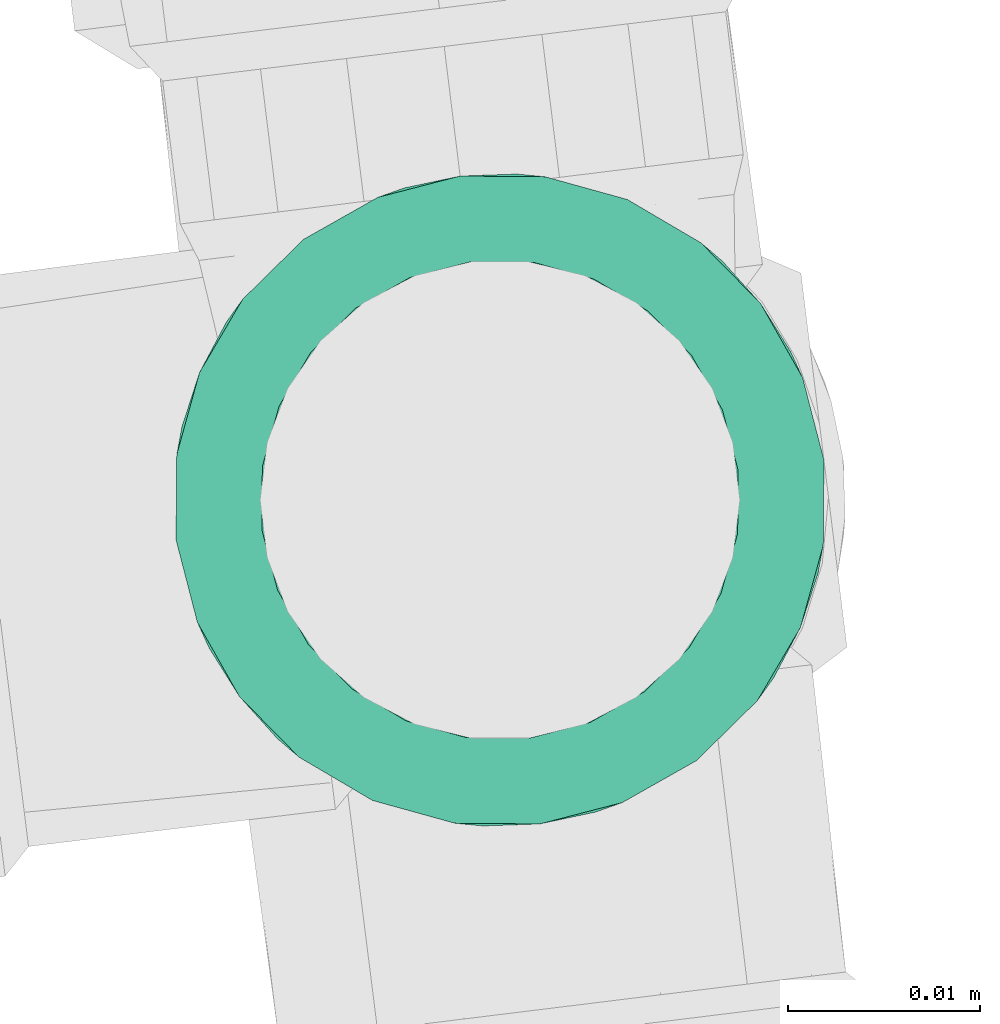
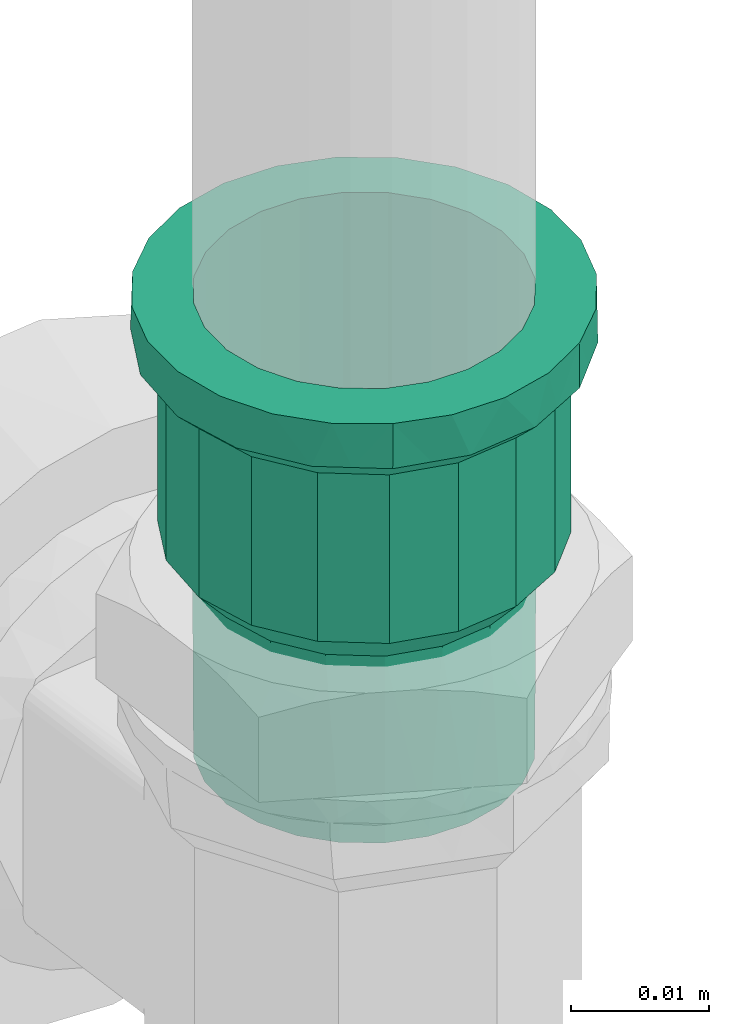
# One storey, part 72 of 97: 1 flow fitting.
"""IFC2X3 building model written with IfcOpenShell, lengths in centimetres."""

from ifc_helpers import new_model, entity, si_unit, converted_unit, derived_unit, direction, frame, origin, place, context, subcontext, project, spatial, faceted_brep, source, transform, mapped, material, type_object, type_shapes, element, save


model = new_model("IFC2X3")

# Units and contexts
model_context = context("Model", 3, precision=0.001, world=origin(), true_north=direction((6.12303176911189e-17, 1.0)))
body_context = subcontext(model_context, "Body", "Model", "MODEL_VIEW")
ifc_project = project(units=[si_unit("LENGTHUNIT", "METRE", prefix="CENTI"), si_unit("AREAUNIT", "SQUARE_METRE"), si_unit("VOLUMEUNIT", "CUBIC_METRE"), converted_unit("PLANEANGLEUNIT", "DEGREE", entity("IfcRatioMeasure", 0.0174532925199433), si_unit("PLANEANGLEUNIT", "RADIAN"), dimensions=[0, 0, 0, 0, 0, 0, 0]), si_unit("MASSUNIT", "GRAM", prefix="KILO"), derived_unit("MASSDENSITYUNIT", [(si_unit("MASSUNIT", "GRAM", prefix="KILO"), 1), (si_unit("LENGTHUNIT", "METRE"), -3)]), derived_unit("MOMENTOFINERTIAUNIT", [(si_unit("LENGTHUNIT", "METRE"), 4)]), si_unit("TIMEUNIT", "SECOND"), si_unit("FREQUENCYUNIT", "HERTZ"), si_unit("THERMODYNAMICTEMPERATUREUNIT", "DEGREE_CELSIUS"), derived_unit("THERMALTRANSMITTANCEUNIT", [(si_unit("MASSUNIT", "GRAM", prefix="KILO"), 1), (si_unit("THERMODYNAMICTEMPERATUREUNIT", "KELVIN"), -1), (si_unit("TIMEUNIT", "SECOND"), -3)]), derived_unit("VOLUMETRICFLOWRATEUNIT", [(si_unit("LENGTHUNIT", "METRE"), 3), (si_unit("TIMEUNIT", "SECOND"), -1)]), si_unit("ELECTRICCURRENTUNIT", "AMPERE"), si_unit("ELECTRICVOLTAGEUNIT", "VOLT"), si_unit("POWERUNIT", "WATT"), si_unit("FORCEUNIT", "NEWTON", prefix="KILO"), si_unit("ILLUMINANCEUNIT", "LUX"), si_unit("LUMINOUSFLUXUNIT", "LUMEN"), si_unit("LUMINOUSINTENSITYUNIT", "CANDELA"), derived_unit("USERDEFINED", [(si_unit("MASSUNIT", "GRAM", prefix="KILO"), -1), (si_unit("LENGTHUNIT", "METRE"), -2), (si_unit("TIMEUNIT", "SECOND"), 3), (si_unit("LUMINOUSFLUXUNIT", "LUMEN"), 1)]), derived_unit("LINEARVELOCITYUNIT", [(si_unit("LENGTHUNIT", "METRE"), 1), (si_unit("TIMEUNIT", "SECOND"), -1)]), si_unit("PRESSUREUNIT", "PASCAL"), derived_unit("USERDEFINED", [(si_unit("LENGTHUNIT", "METRE"), -2), (si_unit("MASSUNIT", "GRAM", prefix="KILO"), 1), (si_unit("TIMEUNIT", "SECOND"), -2)]), derived_unit("LINEARFORCEUNIT", [(si_unit("MASSUNIT", "GRAM", prefix="KILO"), 1), (si_unit("LENGTHUNIT", "METRE"), 1), (si_unit("TIMEUNIT", "SECOND"), -2), (si_unit("LENGTHUNIT", "METRE"), -1)]), derived_unit("PLANARFORCEUNIT", [(si_unit("MASSUNIT", "GRAM", prefix="KILO"), 1), (si_unit("LENGTHUNIT", "METRE"), 1), (si_unit("TIMEUNIT", "SECOND"), -2), (si_unit("LENGTHUNIT", "METRE"), -2)])], contexts=[model_context])

# Site, building, storey
site_placement = place(None, origin())
site = spatial("IfcSite", under=ifc_project, at=site_placement, Name="Default", CompositionType="ELEMENT")
building_placement = place(site_placement, origin())
building = spatial("IfcBuilding", under=site, at=building_placement, Name="HIDROSSANITÁRIO", CompositionType="ELEMENT")
storey_placement = place(building_placement, frame((0.0, 0.0, -260.0)))
storey = spatial("IfcBuildingStorey", under=building, at=storey_placement, Name="TÉRREO-HID", CompositionType="ELEMENT", Elevation=-260.0)

# Flow fitting
ifc_material = material(Name="PVC Marrom")
pipe_fitting_type = type_object("IfcPipeFittingType", Name="PVC Marrom Soldável_Adaptador Curto com Bolsa e Rosca Aninhado:Adaptador", PredefinedType="NOTDEFINED", material=ifc_material)
shared_shape = source(origin(), body_context, "Body", "Brep", [
    faceted_brep([(0.0, 0.624999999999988, -1.08253175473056), (0.0, 1.20208152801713, -1.20208152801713), (0.0, 0.850000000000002, -1.47224318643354), (0.0, 0.883883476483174, -0.883883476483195), (0.0, 0.323523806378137, -1.20740728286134), (0.0, 1.47224318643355, -0.849999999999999), (0.0, 1.08253175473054, -0.625000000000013), (0.0, 1.20740728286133, -0.323523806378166), (0.0, 1.64207390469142, -0.439992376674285), (0.0, 1.25, 0.0), (0.0, 1.7, 0.0), (0.0, 1.20740728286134, 0.323523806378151), (0.0, 1.64207390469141, 0.439992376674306), (0.0, 1.08253175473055, 0.625), (0.0, 1.47224318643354, 0.850000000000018), (0.0, 0.883883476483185, 0.883883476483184), (0.0, 1.20208152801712, 1.20208152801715), (0.0, 0.625000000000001, 1.08253175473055), (0.0, 0.849999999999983, 1.47224318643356), (0.0, 0.323523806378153, 1.20740728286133), (0.0, 0.439992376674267, 1.64207390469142), (0.0, 0.0, 1.25), (0.0, 0.0, 1.7), (0.0, -0.323523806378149, 1.20740728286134), (0.0, -0.439992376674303, 1.64207390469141), (0.0, -0.624999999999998, 1.08253175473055), (0.0, -0.850000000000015, 1.47224318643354), (0.0, -0.883883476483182, 0.883883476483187), (0.0, -1.20208152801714, 1.20208152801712), (0.0, -1.08253175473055, 0.625000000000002), (0.0, -1.47224318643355, 0.849999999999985), (0.0, -1.64207390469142, 0.439992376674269), (0.0, -1.20740728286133, 0.323523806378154), (0.0, -1.7, 0.0), (0.0, -1.25, 0.0), (0.0, -1.64207390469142, -0.43999237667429), (0.0, -1.20740728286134, -0.323523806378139), (0.0, -1.47224318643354, -0.850000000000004), (0.0, -1.08253175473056, -0.624999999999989), (0.0, -1.20208152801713, -1.20208152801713), (0.0, -0.883883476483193, -0.883883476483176), (0.0, -0.849999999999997, -1.47224318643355), (0.0, -0.625000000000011, -1.08253175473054), (0.0, -0.439992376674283, -1.64207390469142), (0.0, -0.323523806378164, -1.20740728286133), (0.0, 0.0, -1.7), (0.0, 0.0, -1.25), (0.0, 0.439992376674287, -1.64207390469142), (0.399999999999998, -1.64873062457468, 0.290739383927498), (0.399999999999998, -1.59746124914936, 0.581478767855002), (0.399999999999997, -1.30221463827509, 1.09281152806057), (0.399999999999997, -1.07604576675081, 1.28256289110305), (0.399999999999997, -1.44983794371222, 0.837145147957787), (0.399999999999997, -0.295015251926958, 1.67420608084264), (0.399999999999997, -0.57244607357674, 1.57326016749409), (0.399999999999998, -1.7, 0.0), (0.399999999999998, -1.659968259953, 0.227012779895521), (0.399999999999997, -0.849876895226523, 1.47231425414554), (0.399999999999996, 0.572840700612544, 1.57311652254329), (0.399999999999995, 0.850246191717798, 1.47210102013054), (0.399999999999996, 0.295435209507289, 1.67413202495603), (0.399999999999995, 1.07636745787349, 1.28229292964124), (0.399999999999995, 1.30248872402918, 1.09248483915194), (0.399999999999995, 1.5976070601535, 0.581078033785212), (0.399999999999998, 1.7, 0.0), (0.399999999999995, 1.45004789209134, 0.836781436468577), (0.399999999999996, 0.000209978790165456, 1.67416905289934), (0.400000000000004, 1.59760706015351, -0.581078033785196), (0.400000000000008, 1.30248872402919, -1.09248483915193), (0.400000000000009, 1.0763674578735, -1.28229292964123), (0.400000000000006, 1.45004789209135, -0.836781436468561), (0.400000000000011, 0.295435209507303, -1.67413202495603), (0.40000000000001, 0.572840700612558, -1.57311652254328), (0.40000000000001, 0.850246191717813, -1.47210102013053), (0.4, -1.64873062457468, -0.290739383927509), (0.400000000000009, -0.572446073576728, -1.57326016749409), (0.400000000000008, -0.849876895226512, -1.47231425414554), (0.40000000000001, -0.295015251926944, -1.67420608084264), (0.400000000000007, -1.0760457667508, -1.28256289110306), (0.400000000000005, -1.30221463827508, -1.09281152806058), (0.400000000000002, -1.59746124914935, -0.581478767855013), (0.400000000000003, -1.44983794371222, -0.837145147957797), (0.40000000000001, 0.000209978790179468, -1.67416905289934), (0.399999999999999, -1.65996825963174, -0.227012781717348), (2.085, -1.41422304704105, 0.514779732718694), (0.590000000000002, -1.41422304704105, 0.514779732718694), (0.590000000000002, -1.45961152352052, 0.257389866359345), (0.590000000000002, -1.505, 0.0), (2.085, -1.505, 0.0), (2.085, -1.45961152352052, 0.257389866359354), (2.085, -1.45359735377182, 0.291495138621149), (2.08499999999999, -0.752391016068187, 1.30343114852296), (0.590000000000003, -0.752391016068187, 1.30343114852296), (0.590000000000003, -0.952616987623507, 1.13544538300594), (0.590000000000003, -1.15284295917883, 0.967459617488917), (2.08499999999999, -1.15284295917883, 0.967459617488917), (2.08499999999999, -0.952616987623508, 1.13544538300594), (0.590000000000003, -1.28353300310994, 0.741119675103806), (2.085, -1.28353300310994, 0.741119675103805), (0.590000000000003, -0.506783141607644, 1.39279797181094), (2.08499999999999, -0.506783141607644, 1.39279797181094), (2.08499999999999, -0.261175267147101, 1.48216479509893), (0.590000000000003, -0.261175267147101, 1.48216479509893), (0.590000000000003, 0.000185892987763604, 1.48213201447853), (2.08499999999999, 0.000185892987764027, 1.48213201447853), (2.08499999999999, 0.261547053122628, 1.48209923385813), (0.590000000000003, 0.261547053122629, 1.48209923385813), (2.08499999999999, 0.75271795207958, 1.3032423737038), (0.590000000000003, 0.752717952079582, 1.3032423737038), (0.590000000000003, 0.507132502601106, 1.39267080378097), (2.08499999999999, 0.507132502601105, 1.39267080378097), (2.08499999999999, 1.15308560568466, 0.967170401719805), (0.590000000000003, 1.15308560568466, 0.967170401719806), (0.590000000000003, 0.952901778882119, 1.1352063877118), (2.08499999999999, 0.952901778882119, 1.1352063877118), (2.085, 1.4143521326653, 0.514424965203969), (0.590000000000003, 1.4143521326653, 0.514424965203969), (0.590000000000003, 1.28371886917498, 0.740797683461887), (2.085, 1.28371886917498, 0.740797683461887), (2.085, 1.505, 0.0), (0.590000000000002, 1.505, 0.0), (2.08500000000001, 1.41435213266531, -0.514424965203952), (0.590000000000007, 1.41435213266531, -0.514424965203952), (0.590000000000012, 0.752717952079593, -1.3032423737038), (0.590000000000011, 0.95290177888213, -1.13520638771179), (0.59000000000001, 1.15308560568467, -0.967170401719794), (2.08500000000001, 1.15308560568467, -0.967170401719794), (2.08500000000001, 0.95290177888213, -1.13520638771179), (2.08500000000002, 0.752717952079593, -1.3032423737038), (2.08500000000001, -1.41422304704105, -0.514779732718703), (0.590000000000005, -1.41422304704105, -0.514779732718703), (0.590000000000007, -1.28353300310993, -0.741119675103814), (0.590000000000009, -1.15284295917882, -0.967459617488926), (2.08500000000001, -1.15284295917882, -0.967459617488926), (2.08500000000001, -1.28353300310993, -0.741119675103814), (2.08500000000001, -0.752391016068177, -1.30343114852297), (0.590000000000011, -0.752391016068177, -1.30343114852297), (0.590000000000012, -0.506783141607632, -1.39279797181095), (0.590000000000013, -0.261175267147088, -1.48216479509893), (2.08500000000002, -0.261175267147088, -1.48216479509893), (2.08500000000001, -0.506783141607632, -1.39279797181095), (0.590000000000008, 1.28371886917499, -0.740797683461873), (2.08500000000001, 1.28371886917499, -0.740797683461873), (0.590000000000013, 0.507132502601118, -1.39267080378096), (2.08500000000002, 0.507132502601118, -1.39267080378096), (2.08500000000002, 0.261547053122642, -1.48209923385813), (0.590000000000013, 0.261547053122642, -1.48209923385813), (2.085, -1.45359734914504, -0.291495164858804), (2.085, -1.46677519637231, -0.216765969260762), (0.590000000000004, -1.45961152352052, -0.257389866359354), (0.59000000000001, -0.952616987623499, -1.13544538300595), (2.08500000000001, -0.952616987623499, -1.13544538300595), (0.590000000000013, 0.000185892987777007, -1.48213201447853), (2.08500000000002, 0.000185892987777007, -1.48213201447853), (4.03, 0.323523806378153, -1.20740728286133), (4.03, 0.625000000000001, -1.08253175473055), (4.03, 0.883883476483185, -0.883883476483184), (4.03, 1.08253175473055, -0.624999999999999), (4.03, 1.20740728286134, -0.323523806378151), (4.03, 1.25, 0.0), (4.03, 1.20740728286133, 0.323523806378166), (4.03, 1.08253175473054, 0.625000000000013), (4.03, 0.883883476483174, 0.883883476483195), (4.03, 0.624999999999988, 1.08253175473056), (4.03, 0.323523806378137, 1.20740728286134), (4.03, 0.0, 1.25), (4.03, -0.323523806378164, 1.20740728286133), (4.03, -0.625000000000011, 1.08253175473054), (4.03, -0.883883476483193, 0.883883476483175), (4.03, -1.08253175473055, 0.624999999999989), (4.03, -1.20740728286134, 0.323523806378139), (4.03, -1.25, 0.0), (4.03, -1.20740728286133, -0.323523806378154), (4.03, -1.08253175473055, -0.625000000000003), (4.03, -0.883883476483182, -0.883883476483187), (4.03, -0.624999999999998, -1.08253175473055), (4.03, -0.323523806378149, -1.20740728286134), (4.03, 0.0, -1.25), (2.375, -1.25, 0.0), (2.37499999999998, -0.957510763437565, 0.803537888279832), (2.37499999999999, -1.17460385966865, 0.427557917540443), (2.37499999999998, -0.624909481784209, 1.08258401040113), (2.37499999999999, -1.06605731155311, 0.615547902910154), (2.375, -1.21825182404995, 0.180038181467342), (2.37499999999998, -0.216922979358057, 1.23103388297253), (2.37499999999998, -0.420916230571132, 1.15680894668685), (2.37499999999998, -0.791210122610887, 0.943060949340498), (2.37499999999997, 0.217231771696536, 1.23097943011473), (2.37499999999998, 0.625181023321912, 1.08242722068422), (2.37499999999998, 0.957712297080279, 0.803297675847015), (2.37499999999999, 1.17471107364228, 0.427263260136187), (2.37499999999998, 0.791446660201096, 0.94286244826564), (2.37499999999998, 0.421206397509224, 1.1567033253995), (2.375, 1.25, 0.0), (2.37499999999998, 1.06621168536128, 0.615280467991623), (2.37499999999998, 0.000154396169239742, 1.23100665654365), (2.37500000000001, 0.957712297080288, -0.803297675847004), (2.375, 1.17471107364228, -0.427263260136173), (2.37500000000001, 0.625181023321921, -1.08242722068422), (2.37500000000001, 1.06621168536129, -0.615280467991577), (2.37500000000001, 0.217231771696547, -1.23097943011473), (2.37500000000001, 0.421206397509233, -1.15670332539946), (2.37500000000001, 0.791446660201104, -0.942862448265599), (2.37500000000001, -0.216922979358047, -1.23103388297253), (2.37500000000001, -0.6249094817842, -1.08258401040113), (2.375, -0.957510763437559, -0.803537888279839), (2.375, -1.17460385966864, -0.427557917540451), (2.37500000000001, -0.79121012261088, -0.943060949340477), (2.37500000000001, -0.420916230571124, -1.15680894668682), (2.375, -1.21230192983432, -0.213778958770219), (2.375, -1.0660573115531, -0.615547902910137), (2.37500000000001, 0.00015439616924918, -1.23100665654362), (0.590000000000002, -1.25, 0.0), (2.085, -1.25, 0.0), (2.085, -1.20740728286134, -0.323523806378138), (0.590000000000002, -1.20740728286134, -0.323523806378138), (0.399999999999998, -1.20740728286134, -0.323523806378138), (0.399999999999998, -1.25, 0.0), (2.085, -1.08253175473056, -0.624999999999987), (0.590000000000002, -1.08253175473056, -0.624999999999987), (0.399999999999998, -1.08253175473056, -0.624999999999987), (0.590000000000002, -0.625000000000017, -1.08253175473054), (0.399999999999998, -0.625000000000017, -1.08253175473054), (0.399999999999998, -0.883883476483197, -0.883883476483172), (0.590000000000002, -0.883883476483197, -0.883883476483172), (2.085, -0.883883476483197, -0.883883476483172), (2.085, -0.625000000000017, -1.08253175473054), (0.590000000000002, -0.32352380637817, -1.20740728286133), (0.399999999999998, -0.32352380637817, -1.20740728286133), (2.085, -0.32352380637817, -1.20740728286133), (2.085, 0.0, -1.25), (0.590000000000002, 0.0, -1.25), (0.399999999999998, 0.0, -1.25), (2.085, 0.323523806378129, -1.20740728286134), (0.590000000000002, 0.323523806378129, -1.20740728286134), (0.399999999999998, 0.323523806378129, -1.20740728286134), (2.085, 0.624999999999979, -1.08253175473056), (0.590000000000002, 0.624999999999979, -1.08253175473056), (0.399999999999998, 0.624999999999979, -1.08253175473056), (0.590000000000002, 1.08253175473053, -0.625000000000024), (0.399999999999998, 1.08253175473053, -0.625000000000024), (0.399999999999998, 0.883883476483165, -0.883883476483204), (0.590000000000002, 0.883883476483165, -0.883883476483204), (2.085, 0.883883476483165, -0.883883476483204), (2.085, 1.08253175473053, -0.625000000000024), (0.590000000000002, 1.20740728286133, -0.323523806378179), (0.399999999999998, 1.20740728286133, -0.323523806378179), (2.085, 1.20740728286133, -0.323523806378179), (2.085, 1.25, 0.0), (0.590000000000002, 1.25, 0.0), (0.399999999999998, 1.25, 0.0), (2.085, 1.20740728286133, 0.323523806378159), (0.590000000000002, 1.20740728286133, 0.323523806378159), (0.399999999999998, 1.20740728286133, 0.323523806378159), (2.085, 1.08253175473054, 0.625000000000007), (0.590000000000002, 1.08253175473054, 0.625000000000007), (0.399999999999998, 1.08253175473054, 0.625000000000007), (0.590000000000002, 0.624999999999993, 1.08253175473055), (0.399999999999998, 0.624999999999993, 1.08253175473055), (0.399999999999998, 0.883883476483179, 0.88388347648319), (0.590000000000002, 0.883883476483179, 0.88388347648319), (2.085, 0.883883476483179, 0.88388347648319), (2.085, 0.624999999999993, 1.08253175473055), (0.590000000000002, 0.323523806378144, 1.20740728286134), (0.399999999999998, 0.323523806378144, 1.20740728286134), (2.085, 0.323523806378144, 1.20740728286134), (2.085, 0.0, 1.25), (0.590000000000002, 0.0, 1.25), (0.399999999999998, 0.0, 1.25), (2.085, -0.323523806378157, 1.20740728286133), (0.590000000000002, -0.323523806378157, 1.20740728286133), (0.399999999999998, -0.323523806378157, 1.20740728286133), (2.085, -0.625000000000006, 1.08253175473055), (0.590000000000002, -0.625000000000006, 1.08253175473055), (0.399999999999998, -0.625000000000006, 1.08253175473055), (0.590000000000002, -1.08253175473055, 0.624999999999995), (0.399999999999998, -1.08253175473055, 0.624999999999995), (0.399999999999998, -0.883883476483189, 0.88388347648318), (0.590000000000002, -0.883883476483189, 0.88388347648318), (2.085, -0.883883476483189, 0.88388347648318), (2.085, -1.08253175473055, 0.624999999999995), (0.590000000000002, -1.20740728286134, 0.323523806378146), (0.399999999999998, -1.20740728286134, 0.323523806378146), (2.085, -1.20740728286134, 0.323523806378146)], [[[0, 1, 2]], [[3, 1, 0]], [[4, 0, 2]], [[1, 3, 5]], [[5, 3, 6]], [[5, 6, 7]], [[8, 5, 7]], [[9, 8, 7]], [[10, 8, 9]], [[10, 9, 11]], [[12, 10, 11]], [[12, 11, 13]], [[14, 12, 13]], [[14, 13, 15]], [[15, 16, 14]], [[15, 17, 16]], [[18, 16, 17]], [[19, 18, 17]], [[18, 19, 20]], [[21, 20, 19]], [[22, 20, 21]], [[21, 23, 22]], [[24, 22, 23]], [[25, 24, 23]], [[24, 25, 26]], [[25, 27, 26]], [[27, 28, 26]], [[28, 27, 29]], [[28, 29, 30]], [[30, 29, 31]], [[31, 29, 32]], [[33, 31, 32]], [[32, 34, 33]], [[33, 34, 35]], [[34, 36, 35]], [[37, 35, 36]], [[37, 36, 38]], [[39, 37, 38]], [[40, 39, 38]], [[40, 41, 39]], [[42, 41, 40]], [[43, 41, 42]], [[42, 44, 43]], [[43, 44, 45]], [[46, 45, 44]], [[46, 4, 47]], [[45, 46, 47]], [[2, 47, 4]], [[48, 49, 31]], [[28, 50, 51]], [[50, 30, 49, 52]], [[53, 24, 54]], [[30, 31, 49]], [[33, 55, 56, 48]], [[51, 57, 26]], [[51, 26, 28]], [[30, 50, 28]], [[58, 59, 18]], [[58, 18, 20]], [[26, 57, 54]], [[26, 54, 24]], [[22, 24, 53]], [[33, 48, 31]], [[20, 60, 58]], [[16, 61, 62]], [[12, 63, 64]], [[63, 14, 62, 65]], [[12, 64, 10]], [[18, 61, 16]], [[22, 53, 66, 60]], [[22, 60, 20]], [[14, 16, 62]], [[59, 61, 18]], [[14, 63, 12]], [[8, 64, 67]], [[1, 68, 69]], [[68, 5, 67, 70]], [[71, 47, 72]], [[5, 8, 67]], [[8, 10, 64]], [[2, 72, 47]], [[69, 73, 2]], [[5, 68, 1]], [[74, 33, 35]], [[75, 76, 41]], [[2, 73, 72]], [[75, 41, 43]], [[45, 47, 71]], [[69, 2, 1]], [[43, 77, 75]], [[39, 78, 79]], [[35, 80, 74]], [[80, 37, 79, 81]], [[37, 80, 35]], [[41, 78, 39]], [[45, 71, 82, 77]], [[45, 77, 43]], [[37, 39, 79]], [[76, 78, 41]], [[33, 74, 83, 55]], [[84, 85, 86, 87, 88, 89, 90]], [[91, 92, 93, 94, 95, 96]], [[97, 85, 84, 98, 95, 94]], [[99, 92, 91, 100, 101, 102]], [[103, 102, 101, 104, 105, 106]], [[107, 108, 109, 106, 105, 110]], [[111, 112, 113, 108, 107, 114]], [[115, 116, 117, 112, 111, 118]], [[115, 119, 120, 116]], [[120, 119, 121, 122]], [[123, 124, 125, 126, 127, 128]], [[129, 130, 131, 132, 133, 134]], [[135, 136, 137, 138, 139, 140]], [[141, 122, 121, 142, 126, 125]], [[143, 123, 128, 144, 145, 146]], [[147, 148, 88, 87, 149, 130, 129]], [[133, 132, 150, 136, 135, 151]], [[152, 146, 145, 153, 139, 138]], [[154, 155, 156, 157, 158, 159, 160, 161, 162, 163, 164, 165, 166, 167, 168, 169, 170, 171, 172, 173, 174, 175, 176, 177]], [[178, 171, 170]], [[179, 169, 168]], [[170, 169, 180]], [[168, 167, 181]], [[169, 179, 182, 180]], [[170, 180, 183, 178]], [[166, 184, 185, 181]], [[168, 181, 186, 179]], [[184, 166, 165]], [[181, 167, 166]], [[164, 187, 165]], [[163, 188, 164]], [[189, 162, 161]], [[163, 162, 188]], [[190, 161, 160]], [[162, 189, 191, 188]], [[164, 188, 192, 187]], [[160, 193, 190]], [[161, 190, 194, 189]], [[160, 159, 193]], [[165, 187, 195, 184]], [[193, 159, 158]], [[196, 157, 156]], [[158, 157, 197]], [[156, 155, 198]], [[157, 196, 199, 197]], [[197, 193, 158]], [[154, 200, 201, 198]], [[156, 198, 202, 196]], [[200, 154, 177]], [[198, 155, 154]], [[176, 203, 177]], [[175, 204, 176]], [[205, 174, 173]], [[175, 174, 204]], [[206, 173, 172]], [[174, 205, 207, 204]], [[176, 204, 208, 203]], [[172, 178, 209, 206]], [[173, 206, 210, 205]], [[172, 171, 178]], [[177, 203, 211, 200]], [[212, 213, 214, 215, 216, 36, 34, 217]], [[215, 214, 218, 219, 220, 38, 36, 216]], [[221, 222, 42, 40, 223, 224, 225, 226]], [[225, 224, 223, 40, 38, 220, 219, 218]], [[227, 228, 44, 42, 222, 221, 226, 229]], [[227, 229, 230, 231, 232, 46, 44, 228]], [[231, 230, 233, 234, 235, 4, 46, 232]], [[234, 233, 236, 237, 238, 0, 4, 235]], [[239, 240, 6, 3, 241, 242, 243, 244]], [[243, 242, 241, 3, 0, 238, 237, 236]], [[245, 246, 7, 6, 240, 239, 244, 247]], [[245, 247, 248, 249, 250, 9, 7, 246]], [[249, 248, 251, 252, 253, 11, 9, 250]], [[252, 251, 254, 255, 256, 13, 11, 253]], [[257, 258, 17, 15, 259, 260, 261, 262]], [[261, 260, 259, 15, 13, 256, 255, 254]], [[263, 264, 19, 17, 258, 257, 262, 265]], [[263, 265, 266, 267, 268, 21, 19, 264]], [[267, 266, 269, 270, 271, 23, 21, 268]], [[270, 269, 272, 273, 274, 25, 23, 271]], [[275, 276, 29, 27, 277, 278, 279, 280]], [[279, 278, 277, 27, 25, 274, 273, 272]], [[281, 282, 32, 29, 276, 275, 280, 283]], [[281, 283, 213, 212, 217, 34, 32, 282]], [[120, 122, 67, 64]], [[73, 123, 143, 146, 71, 72]], [[123, 73, 69, 68, 125, 124]], [[70, 67, 122, 141, 125, 68]], [[77, 138, 137, 136, 76, 75]], [[130, 80, 81, 79, 132, 131]], [[149, 87, 55, 83, 74, 80, 130]], [[82, 71, 146, 152, 138, 77]], [[78, 76, 136, 150, 132, 79]], [[49, 48, 56, 55, 87, 86, 85]], [[52, 49, 85, 97, 94, 50]], [[51, 50, 94, 93, 92, 57]], [[92, 99, 102, 53, 54, 57]], [[103, 106, 60, 66, 53, 102]], [[109, 108, 59, 58, 60, 106]], [[116, 120, 64, 63]], [[112, 117, 116, 63, 65, 62]], [[108, 113, 112, 62, 61, 59]], [[233, 230, 229, 226, 225, 218, 214, 213, 283, 280, 279, 272, 269, 266, 265, 262, 261, 254, 251, 248, 247, 244, 243, 236]], [[180, 84, 90, 89, 88, 178, 183]], [[184, 101, 100, 91, 181, 185]], [[96, 95, 179, 186, 181, 91]], [[98, 84, 180, 182, 179, 95]], [[101, 184, 195, 187, 105, 104]], [[190, 115, 118, 111, 189, 194]], [[105, 187, 192, 188, 107, 110]], [[190, 193, 119, 115]], [[114, 107, 188, 191, 189, 111]], [[193, 197, 121, 119]], [[128, 198, 201, 200, 145, 144]], [[198, 128, 127, 126, 196, 202]], [[142, 121, 197, 199, 196, 126]], [[139, 203, 208, 204, 135, 140]], [[206, 129, 134, 133, 205, 210]], [[209, 178, 88, 148, 147, 129, 206]], [[153, 145, 200, 211, 203, 139]], [[151, 135, 204, 207, 205, 133]]]),
])
type_shapes(pipe_fitting_type, [shared_shape])
flow_fitting_placement = place(storey_placement, frame((-1509.71550067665, 2919.59112945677, 185.474999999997), z_axis=(-0.122152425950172, 0.992511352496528, 0.0), x_axis=(0.0, 0.0, -1.0)))
element("IfcFlowFitting", 1, at=flow_fitting_placement, inside=storey, type_object=pipe_fitting_type, material=ifc_material, Name="PVC Marrom Soldável_Adaptador Curto com Bolsa e Rosca Aninhado:Adaptador", ObjectType="PVC Marrom Soldável_Adaptador Curto com Bolsa e Rosca Aninhado:Adaptador", context=body_context, shape_type="MappedRepresentation", body=[
    mapped(shared_shape, transform((0.0, 0.0, 0.0), scale=1.0)),
])

save(model, "model.ifc")
